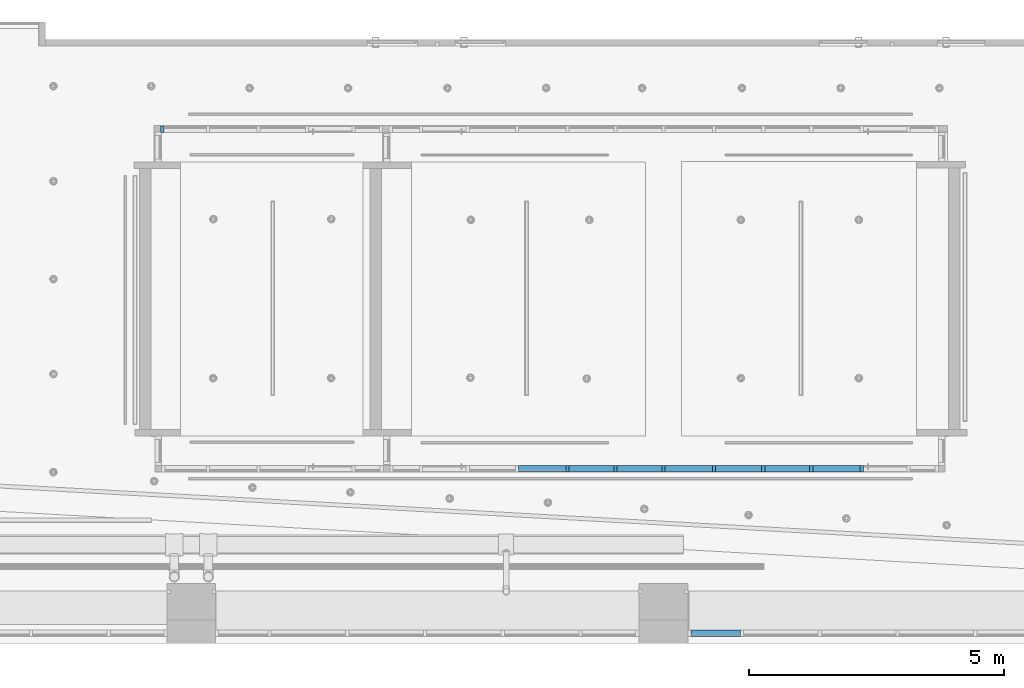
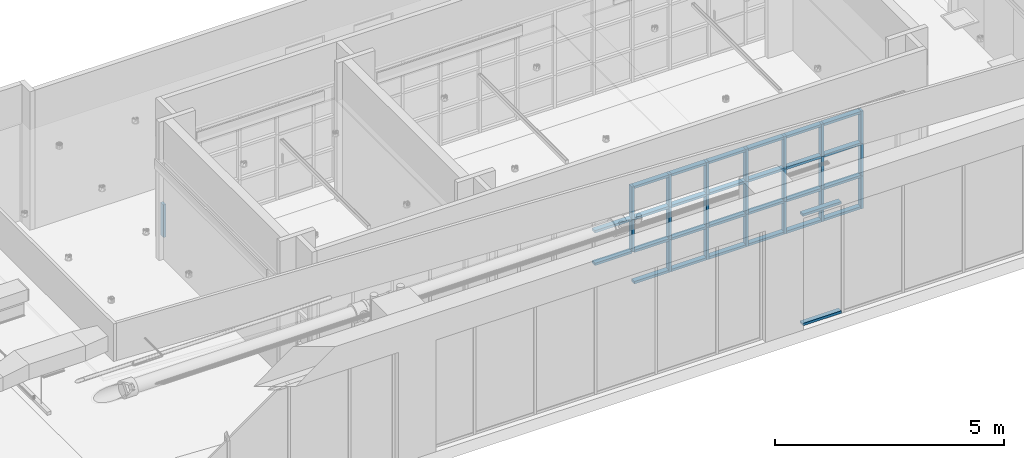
# One storey, part 6 of 108: 49 members, 3 elements without a shape of their own.
"""IFC4 building model written with IfcOpenShell, lengths in feet."""

from ifc_helpers import new_model, entity, si_unit, converted_unit, derived_unit, direction, frame, origin, origin_2d_with_axis, place, context, subcontext, project, spatial, rectangle, extrude, source, transform, mapped, material, material_profile, profile_set, profile_usage, type_object, type_shapes, element, aggregate, save


model = new_model("IFC4")

# Units and contexts
model_context = context("Model", 3, precision=0.0001, world=origin(), true_north=direction((6.12303176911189e-17, 1.0)))
body_context = subcontext(model_context, "Body", "Model", "MODEL_VIEW")
ifc_project = project(units=[converted_unit("LENGTHUNIT", "FOOT", entity("IfcRatioMeasure", 0.3048), si_unit("LENGTHUNIT", "METRE"), dimensions=[1, 0, 0, 0, 0, 0, 0]), converted_unit("AREAUNIT", "SQUARE FOOT", entity("IfcRatioMeasure", 0.09290304), si_unit("AREAUNIT", "SQUARE_METRE"), dimensions=[2, 0, 0, 0, 0, 0, 0]), converted_unit("VOLUMEUNIT", "CUBIC FOOT", entity("IfcRatioMeasure", 0.028316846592), si_unit("VOLUMEUNIT", "CUBIC_METRE"), dimensions=[3, 0, 0, 0, 0, 0, 0]), converted_unit("PLANEANGLEUNIT", "DEGREE", entity("IfcRatioMeasure", 0.0174532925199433), si_unit("PLANEANGLEUNIT", "RADIAN"), dimensions=[0, 0, 0, 0, 0, 0, 0]), si_unit("MASSUNIT", "GRAM", prefix="KILO"), derived_unit("MASSDENSITYUNIT", [(si_unit("MASSUNIT", "GRAM", prefix="KILO"), 1), (si_unit("LENGTHUNIT", "METRE"), -3)]), si_unit("TIMEUNIT", "SECOND"), si_unit("FREQUENCYUNIT", "HERTZ"), si_unit("THERMODYNAMICTEMPERATUREUNIT", "DEGREE_CELSIUS"), derived_unit("THERMALTRANSMITTANCEUNIT", [(si_unit("MASSUNIT", "GRAM", prefix="KILO"), 1), (si_unit("THERMODYNAMICTEMPERATUREUNIT", "KELVIN"), -1), (si_unit("TIMEUNIT", "SECOND"), -3)]), derived_unit("VOLUMETRICFLOWRATEUNIT", [(si_unit("LENGTHUNIT", "METRE"), 3), (si_unit("TIMEUNIT", "SECOND"), -1)]), si_unit("ELECTRICCURRENTUNIT", "AMPERE"), si_unit("ELECTRICVOLTAGEUNIT", "VOLT"), si_unit("POWERUNIT", "WATT"), si_unit("FORCEUNIT", "NEWTON"), si_unit("ILLUMINANCEUNIT", "LUX"), si_unit("LUMINOUSFLUXUNIT", "LUMEN"), si_unit("LUMINOUSINTENSITYUNIT", "CANDELA"), derived_unit("USERDEFINED", [(si_unit("MASSUNIT", "GRAM", prefix="KILO"), -1), (si_unit("LENGTHUNIT", "METRE"), -2), (si_unit("TIMEUNIT", "SECOND"), 3), (si_unit("LUMINOUSFLUXUNIT", "LUMEN"), 1)]), derived_unit("LINEARVELOCITYUNIT", [(si_unit("LENGTHUNIT", "METRE"), 1), (si_unit("TIMEUNIT", "SECOND"), -1)]), si_unit("PRESSUREUNIT", "PASCAL"), derived_unit("USERDEFINED", [(si_unit("LENGTHUNIT", "METRE"), -2), (si_unit("MASSUNIT", "GRAM", prefix="KILO"), 1), (si_unit("TIMEUNIT", "SECOND"), -2)])], contexts=[model_context])

# Site, building, storey
site_placement = place(None, origin())
site = spatial("IfcSite", under=ifc_project, at=site_placement, Name="Default", CompositionType="ELEMENT")
building_placement = place(site_placement, origin())
building = spatial("IfcBuilding", under=site, at=building_placement, CompositionType="ELEMENT")
storey_placement = place(building_placement, frame((0.0, 0.0, 168.0)))
storey = spatial("IfcBuildingStorey", under=building, at=storey_placement, Name="Level 15", CompositionType="ELEMENT", Elevation=168.0)

# Curtain wall, members
curtain_wall_type_1 = type_object("IfcCurtainWallType", Name="Curtain Wall:Storefront", PredefinedType="NOTDEFINED")
curtain_wall_1_placement = place(storey_placement, frame((0.0, 0.0, -168.0)))
curtain_wall_1 = element("IfcCurtainWall", 1, at=curtain_wall_1_placement, inside=storey, type_object=curtain_wall_type_1, Name="Curtain Wall:Storefront", ObjectType="Curtain Wall:Storefront", PredefinedType="NOTDEFINED")
ifc_material = material(Name="Aluminum", Category="Metal")
ifc_material_profile = material_profile(ifc_material, rectangle(XDim=0.416666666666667, YDim=0.208333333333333, at=origin_2d_with_axis()), Name="2.5\" x 5\" rectangular")
ifc_profile_set = profile_set([ifc_material_profile], Name="2.5\" x 5\" rectangular")
ifc_profile_usage_1 = profile_usage(ifc_profile_set)
member_type_1 = type_object("IfcMemberType", Name="2.5\" x 5\" rectangular", PredefinedType="MEMBER", material=ifc_profile_set)
shared_shape_1 = source(origin(), body_context, "Body", "SweptSolid", [
    extrude(rectangle(XDim=0.416666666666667, YDim=0.208333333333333, at=origin_2d_with_axis()), frame((-0.104166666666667, 0.0, -3.16660895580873), z_axis=(0.0, 0.0, 1.0), x_axis=(0.0, -1.0, 0.0)), (0.0, 0.0, 1.0), 3.16660895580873),
])
type_shapes(member_type_1, [shared_shape_1])
member_1_placement = place(storey_placement, frame((32.7802034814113, -22.4324357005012, 9.74877040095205), z_axis=(-1.0, 0.0, 0.0), x_axis=(0.0, 0.0, 1.0)))
member_1 = element("IfcMember", 2, at=member_1_placement, type_object=member_type_1, material=ifc_profile_usage_1, Name="Rectangular Mullion:2.5\" x 5\" rectangular", ObjectType="Rectangular Mullion:2.5\" x 5\" rectangular", PredefinedType="MULLION", context=body_context, shape_type="MappedRepresentation", body=[
    mapped(shared_shape_1, transform((0.0, 0.0, 0.0), scale=1.0)),
])
ifc_profile_usage_2 = profile_usage(ifc_profile_set)
member_type_2 = type_object("IfcMemberType", Name="2.5\" x 5\" rectangular", PredefinedType="MEMBER", material=ifc_profile_set)
shared_shape_2 = source(origin(), body_context, "Body", "SweptSolid", [
    extrude(rectangle(XDim=0.416666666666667, YDim=0.208333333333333, at=origin_2d_with_axis()), frame((-0.104166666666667, 0.0, -3.16660895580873), z_axis=(0.0, 0.0, 1.0), x_axis=(0.0, -1.0, 0.0)), (0.0, 0.0, 1.0), 3.16660895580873),
])
type_shapes(member_type_2, [shared_shape_2])
member_2_placement = place(storey_placement, frame((35.94681243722, -22.4324357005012, 0.0), z_axis=(1.0, 0.0, 0.0), x_axis=(0.0, 0.0, -1.0)))
member_2 = element("IfcMember", 3, at=member_2_placement, type_object=member_type_2, material=ifc_profile_usage_2, Name="Rectangular Mullion:2.5\" x 5\" rectangular", ObjectType="Rectangular Mullion:2.5\" x 5\" rectangular", PredefinedType="MULLION", context=body_context, shape_type="MappedRepresentation", body=[
    mapped(shared_shape_2, transform((0.0, 0.0, 0.0), scale=1.0)),
])
aggregate(curtain_wall_1, [member_1, member_2])

curtain_wall_type_2 = type_object("IfcCurtainWallType", Name="Curtain Wall:Storefront 02", PredefinedType="NOTDEFINED")
curtain_wall_2_placement = place(storey_placement, frame((0.0, 0.0, -168.0)))
curtain_wall_2 = element("IfcCurtainWall", 4, at=curtain_wall_2_placement, inside=storey, type_object=curtain_wall_type_2, Name="Curtain Wall:Storefront 02", ObjectType="Curtain Wall:Storefront 02", PredefinedType="NOTDEFINED")
ifc_profile_usage_3 = profile_usage(ifc_profile_set)
member_type_3 = type_object("IfcMemberType", Name="2.5\" x 5\" rectangular", PredefinedType="MEMBER", material=ifc_profile_set)
shared_shape_3 = source(origin(), body_context, "Body", "SweptSolid", [
    extrude(rectangle(XDim=0.416666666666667, YDim=0.208333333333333, at=origin_2d_with_axis()), frame((0.0, 0.0, -2.84094160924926), z_axis=(0.0, 0.0, 1.0), x_axis=(0.0, -1.0, 0.0)), (0.0, 0.0, 1.0), 2.84094160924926),
])
type_shapes(member_type_3, [shared_shape_3])
member_3_placement = place(storey_placement, frame((27.922037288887, -11.8802703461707, 0.0), z_axis=(0.0, 0.0, -1.0), x_axis=(-1.0, 0.0, 0.0)))
member_3 = element("IfcMember", 5, at=member_3_placement, type_object=member_type_3, material=ifc_profile_usage_3, Name="Rectangular Mullion:2.5\" x 5\" rectangular", ObjectType="Rectangular Mullion:2.5\" x 5\" rectangular", PredefinedType="MULLION", context=body_context, shape_type="MappedRepresentation", body=[
    mapped(shared_shape_3, transform((0.0, 0.0, 0.0), scale=1.0)),
])
ifc_profile_usage_4 = profile_usage(ifc_profile_set)
member_4_placement = place(storey_placement, frame((31.0053706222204, -11.8802703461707, 0.0), z_axis=(0.0, 0.0, -1.0), x_axis=(-1.0, 0.0, 0.0)))
member_4 = element("IfcMember", 6, at=member_4_placement, type_object=member_type_3, material=ifc_profile_usage_4, Name="Rectangular Mullion:2.5\" x 5\" rectangular", ObjectType="Rectangular Mullion:2.5\" x 5\" rectangular", PredefinedType="MULLION", context=body_context, shape_type="MappedRepresentation", body=[
    mapped(shared_shape_3, transform((0.0, 0.0, 0.0), scale=1.0)),
])
ifc_profile_usage_5 = profile_usage(ifc_profile_set)
member_5_placement = place(storey_placement, frame((34.2553706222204, -11.8802703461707, 0.0), z_axis=(0.0, 0.0, -1.0), x_axis=(-1.0, 0.0, 0.0)))
member_5 = element("IfcMember", 7, at=member_5_placement, type_object=member_type_3, material=ifc_profile_usage_5, Name="Rectangular Mullion:2.5\" x 5\" rectangular", ObjectType="Rectangular Mullion:2.5\" x 5\" rectangular", PredefinedType="MULLION", context=body_context, shape_type="MappedRepresentation", body=[
    mapped(shared_shape_3, transform((0.0, 0.0, 0.0), scale=1.0)),
])
ifc_profile_usage_6 = profile_usage(ifc_profile_set)
member_6_placement = place(storey_placement, frame((37.422037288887, -11.8802703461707, 0.0), z_axis=(0.0, 0.0, -1.0), x_axis=(-1.0, 0.0, 0.0)))
member_6 = element("IfcMember", 8, at=member_6_placement, type_object=member_type_3, material=ifc_profile_usage_6, Name="Rectangular Mullion:2.5\" x 5\" rectangular", ObjectType="Rectangular Mullion:2.5\" x 5\" rectangular", PredefinedType="MULLION", context=body_context, shape_type="MappedRepresentation", body=[
    mapped(shared_shape_3, transform((0.0, 0.0, 0.0), scale=1.0)),
])
ifc_profile_usage_7 = profile_usage(ifc_profile_set)
member_7_placement = place(storey_placement, frame((40.5053706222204, -11.8802703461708, 0.0), z_axis=(0.0, 0.0, -1.0), x_axis=(-1.0, 0.0, 0.0)))
member_7 = element("IfcMember", 9, at=member_7_placement, type_object=member_type_3, material=ifc_profile_usage_7, Name="Rectangular Mullion:2.5\" x 5\" rectangular", ObjectType="Rectangular Mullion:2.5\" x 5\" rectangular", PredefinedType="MULLION", context=body_context, shape_type="MappedRepresentation", body=[
    mapped(shared_shape_3, transform((0.0, 0.0, 0.0), scale=1.0)),
])
ifc_profile_usage_8 = profile_usage(ifc_profile_set)
member_8_placement = place(storey_placement, frame((43.7553706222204, -11.8802703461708, 0.0), z_axis=(0.0, 0.0, -1.0), x_axis=(-1.0, 0.0, 0.0)))
member_8 = element("IfcMember", 10, at=member_8_placement, type_object=member_type_3, material=ifc_profile_usage_8, Name="Rectangular Mullion:2.5\" x 5\" rectangular", ObjectType="Rectangular Mullion:2.5\" x 5\" rectangular", PredefinedType="MULLION", context=body_context, shape_type="MappedRepresentation", body=[
    mapped(shared_shape_3, transform((0.0, 0.0, 0.0), scale=1.0)),
])
ifc_profile_usage_9 = profile_usage(ifc_profile_set)
member_type_4 = type_object("IfcMemberType", Name="2.5\" x 5\" rectangular", PredefinedType="MEMBER", material=ifc_profile_set)
shared_shape_4 = source(origin(), body_context, "Body", "SweptSolid", [
    extrude(rectangle(XDim=0.416666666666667, YDim=0.208333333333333, at=origin_2d_with_axis()), frame((-0.104166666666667, 0.0, -2.95833333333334), z_axis=(0.0, 0.0, 1.0), x_axis=(0.0, -1.0, 0.0)), (0.0, 0.0, 1.0), 2.95833333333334),
])
type_shapes(member_type_4, [shared_shape_4])
member_9_placement = place(storey_placement, frame((34.359537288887, -11.8802703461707, 8.52282482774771), z_axis=(-1.0, 0.0, 0.0), x_axis=(0.0, 0.0, 1.0)))
member_9 = element("IfcMember", 11, at=member_9_placement, type_object=member_type_4, material=ifc_profile_usage_9, Name="Rectangular Mullion:2.5\" x 5\" rectangular", ObjectType="Rectangular Mullion:2.5\" x 5\" rectangular", PredefinedType="MULLION", context=body_context, shape_type="MappedRepresentation", body=[
    mapped(shared_shape_4, transform((0.0, 0.0, 0.0), scale=1.0)),
])
ifc_profile_usage_10 = profile_usage(ifc_profile_set)
member_type_5 = type_object("IfcMemberType", Name="2.5\" x 5\" rectangular", PredefinedType="MEMBER", material=ifc_profile_set)
shared_shape_5 = source(origin(), body_context, "Body", "SweptSolid", [
    extrude(rectangle(XDim=0.416666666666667, YDim=0.208333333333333, at=origin_2d_with_axis()), frame((-0.104166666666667, 0.0, -3.04166666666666), z_axis=(0.0, 0.0, 1.0), x_axis=(0.0, -1.0, 0.0)), (0.0, 0.0, 1.0), 3.04166666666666),
])
type_shapes(member_type_5, [shared_shape_5])
member_10_placement = place(storey_placement, frame((31.109537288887, -11.8802703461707, 8.52282482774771), z_axis=(-1.0, 0.0, 0.0), x_axis=(0.0, 0.0, 1.0)))
member_10 = element("IfcMember", 12, at=member_10_placement, type_object=member_type_5, material=ifc_profile_usage_10, Name="Rectangular Mullion:2.5\" x 5\" rectangular", ObjectType="Rectangular Mullion:2.5\" x 5\" rectangular", PredefinedType="MULLION", context=body_context, shape_type="MappedRepresentation", body=[
    mapped(shared_shape_5, transform((0.0, 0.0, 0.0), scale=1.0)),
])
ifc_profile_usage_11 = profile_usage(ifc_profile_set)
member_11_placement = place(storey_placement, frame((40.609537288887, -11.8802703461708, 8.52282482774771), z_axis=(-1.0, 0.0, 0.0), x_axis=(0.0, 0.0, 1.0)))
member_11 = element("IfcMember", 13, at=member_11_placement, type_object=member_type_5, material=ifc_profile_usage_11, Name="Rectangular Mullion:2.5\" x 5\" rectangular", ObjectType="Rectangular Mullion:2.5\" x 5\" rectangular", PredefinedType="MULLION", context=body_context, shape_type="MappedRepresentation", body=[
    mapped(shared_shape_5, transform((0.0, 0.0, 0.0), scale=1.0)),
])
ifc_profile_usage_12 = profile_usage(ifc_profile_set)
member_type_6 = type_object("IfcMemberType", Name="2.5\" x 5\" rectangular", PredefinedType="MEMBER", material=ifc_profile_set)
shared_shape_6 = source(origin(), body_context, "Body", "SweptSolid", [
    extrude(rectangle(XDim=0.416666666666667, YDim=0.208333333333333, at=origin_2d_with_axis()), frame((-0.104166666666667, 0.0, -2.95833333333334), z_axis=(0.0, 0.0, 1.0), x_axis=(0.0, -1.0, 0.0)), (0.0, 0.0, 1.0), 2.95833333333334),
])
type_shapes(member_type_6, [shared_shape_6])
member_12_placement = place(storey_placement, frame((37.3178706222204, -11.8802703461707, 0.0), z_axis=(1.0, 0.0, 0.0), x_axis=(0.0, 0.0, -1.0)))
member_12 = element("IfcMember", 14, at=member_12_placement, type_object=member_type_6, material=ifc_profile_usage_12, Name="Rectangular Mullion:2.5\" x 5\" rectangular", ObjectType="Rectangular Mullion:2.5\" x 5\" rectangular", PredefinedType="MULLION", context=body_context, shape_type="MappedRepresentation", body=[
    mapped(shared_shape_6, transform((0.0, 0.0, 0.0), scale=1.0)),
])
ifc_profile_usage_13 = profile_usage(ifc_profile_set)
member_type_7 = type_object("IfcMemberType", Name="2.5\" x 5\" rectangular", PredefinedType="MEMBER", material=ifc_profile_set)
shared_shape_7 = source(origin(), body_context, "Body", "SweptSolid", [
    extrude(rectangle(XDim=0.416666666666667, YDim=0.208333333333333, at=origin_2d_with_axis()), frame((-0.104166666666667, 0.0, -2.875), z_axis=(0.0, 0.0, 1.0), x_axis=(0.0, -1.0, 0.0)), (0.0, 0.0, 1.0), 2.875),
])
type_shapes(member_type_7, [shared_shape_7])
member_13_placement = place(storey_placement, frame((24.9428706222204, -11.8802703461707, 8.52282482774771), z_axis=(-1.0, 0.0, 0.0), x_axis=(0.0, 0.0, 1.0)))
member_13 = element("IfcMember", 15, at=member_13_placement, type_object=member_type_7, material=ifc_profile_usage_13, Name="Rectangular Mullion:2.5\" x 5\" rectangular", ObjectType="Rectangular Mullion:2.5\" x 5\" rectangular", PredefinedType="MULLION", context=body_context, shape_type="MappedRepresentation", body=[
    mapped(shared_shape_7, transform((0.0, 0.0, 0.0), scale=1.0)),
])
ifc_profile_usage_14 = profile_usage(ifc_profile_set)
member_14_placement = place(storey_placement, frame((28.0262039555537, -11.8802703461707, 8.52282482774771), z_axis=(-1.0, 0.0, 0.0), x_axis=(0.0, 0.0, 1.0)))
member_14 = element("IfcMember", 16, at=member_14_placement, type_object=member_type_7, material=ifc_profile_usage_14, Name="Rectangular Mullion:2.5\" x 5\" rectangular", ObjectType="Rectangular Mullion:2.5\" x 5\" rectangular", PredefinedType="MULLION", context=body_context, shape_type="MappedRepresentation", body=[
    mapped(shared_shape_7, transform((0.0, 0.0, 0.0), scale=1.0)),
])
ifc_profile_usage_15 = profile_usage(ifc_profile_set)
member_15_placement = place(storey_placement, frame((37.5262039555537, -11.8802703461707, 8.52282482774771), z_axis=(-1.0, 0.0, 0.0), x_axis=(0.0, 0.0, 1.0)))
member_15 = element("IfcMember", 17, at=member_15_placement, type_object=member_type_7, material=ifc_profile_usage_15, Name="Rectangular Mullion:2.5\" x 5\" rectangular", ObjectType="Rectangular Mullion:2.5\" x 5\" rectangular", PredefinedType="MULLION", context=body_context, shape_type="MappedRepresentation", body=[
    mapped(shared_shape_7, transform((0.0, 0.0, 0.0), scale=1.0)),
])
ifc_profile_usage_16 = profile_usage(ifc_profile_set)
member_type_8 = type_object("IfcMemberType", Name="2.5\" x 5\" rectangular", PredefinedType="MEMBER", material=ifc_profile_set)
shared_shape_8 = source(origin(), body_context, "Body", "SweptSolid", [
    extrude(rectangle(XDim=0.416666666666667, YDim=0.208333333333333, at=origin_2d_with_axis()), frame((-0.104166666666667, 0.0, -3.04166666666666), z_axis=(0.0, 0.0, 1.0), x_axis=(0.0, -1.0, 0.0)), (0.0, 0.0, 1.0), 3.04166666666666),
])
type_shapes(member_type_8, [shared_shape_8])
member_16_placement = place(storey_placement, frame((34.1512039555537, -11.8802703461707, 0.0), z_axis=(1.0, 0.0, 0.0), x_axis=(0.0, 0.0, -1.0)))
member_16 = element("IfcMember", 18, at=member_16_placement, type_object=member_type_8, material=ifc_profile_usage_16, Name="Rectangular Mullion:2.5\" x 5\" rectangular", ObjectType="Rectangular Mullion:2.5\" x 5\" rectangular", PredefinedType="MULLION", context=body_context, shape_type="MappedRepresentation", body=[
    mapped(shared_shape_8, transform((0.0, 0.0, 0.0), scale=1.0)),
])
ifc_profile_usage_17 = profile_usage(ifc_profile_set)
member_17_placement = place(storey_placement, frame((43.6512039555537, -11.8802703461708, 0.0), z_axis=(1.0, 0.0, 0.0), x_axis=(0.0, 0.0, -1.0)))
member_17 = element("IfcMember", 19, at=member_17_placement, type_object=member_type_8, material=ifc_profile_usage_17, Name="Rectangular Mullion:2.5\" x 5\" rectangular", ObjectType="Rectangular Mullion:2.5\" x 5\" rectangular", PredefinedType="MULLION", context=body_context, shape_type="MappedRepresentation", body=[
    mapped(shared_shape_8, transform((0.0, 0.0, 0.0), scale=1.0)),
])
ifc_profile_usage_18 = profile_usage(ifc_profile_set)
member_type_9 = type_object("IfcMemberType", Name="2.5\" x 5\" rectangular", PredefinedType="MEMBER", material=ifc_profile_set)
shared_shape_9 = source(origin(), body_context, "Body", "SweptSolid", [
    extrude(rectangle(XDim=0.416666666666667, YDim=0.208333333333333, at=origin_2d_with_axis()), frame((-0.104166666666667, 0.0, -2.875), z_axis=(0.0, 0.0, 1.0), x_axis=(0.0, -1.0, 0.0)), (0.0, 0.0, 1.0), 2.875),
])
type_shapes(member_type_9, [shared_shape_9])
member_18_placement = place(storey_placement, frame((27.8178706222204, -11.8802703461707, 0.0), z_axis=(1.0, 0.0, 0.0), x_axis=(0.0, 0.0, -1.0)))
member_18 = element("IfcMember", 20, at=member_18_placement, type_object=member_type_9, material=ifc_profile_usage_18, Name="Rectangular Mullion:2.5\" x 5\" rectangular", ObjectType="Rectangular Mullion:2.5\" x 5\" rectangular", PredefinedType="MULLION", context=body_context, shape_type="MappedRepresentation", body=[
    mapped(shared_shape_9, transform((0.0, 0.0, 0.0), scale=1.0)),
])
ifc_profile_usage_19 = profile_usage(ifc_profile_set)
member_19_placement = place(storey_placement, frame((30.9012039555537, -11.8802703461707, 0.0), z_axis=(1.0, 0.0, 0.0), x_axis=(0.0, 0.0, -1.0)))
member_19 = element("IfcMember", 21, at=member_19_placement, type_object=member_type_9, material=ifc_profile_usage_19, Name="Rectangular Mullion:2.5\" x 5\" rectangular", ObjectType="Rectangular Mullion:2.5\" x 5\" rectangular", PredefinedType="MULLION", context=body_context, shape_type="MappedRepresentation", body=[
    mapped(shared_shape_9, transform((0.0, 0.0, 0.0), scale=1.0)),
])
ifc_profile_usage_20 = profile_usage(ifc_profile_set)
member_20_placement = place(storey_placement, frame((40.4012039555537, -11.8802703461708, 0.0), z_axis=(1.0, 0.0, 0.0), x_axis=(0.0, 0.0, -1.0)))
member_20 = element("IfcMember", 22, at=member_20_placement, type_object=member_type_9, material=ifc_profile_usage_20, Name="Rectangular Mullion:2.5\" x 5\" rectangular", ObjectType="Rectangular Mullion:2.5\" x 5\" rectangular", PredefinedType="MULLION", context=body_context, shape_type="MappedRepresentation", body=[
    mapped(shared_shape_9, transform((0.0, 0.0, 0.0), scale=1.0)),
])
ifc_profile_usage_21 = profile_usage(ifc_profile_set)
member_type_10 = type_object("IfcMemberType", Name="2.5\" x 5\" rectangular", PredefinedType="MEMBER", material=ifc_profile_set)
shared_shape_10 = source(origin(), body_context, "Body", "SweptSolid", [
    extrude(rectangle(XDim=0.416666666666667, YDim=0.208333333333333, at=origin_2d_with_axis()), frame((0.0, 0.0, -3.04166666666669), z_axis=(0.0, 0.0, 1.0), x_axis=(0.0, -1.0, 0.0)), (0.0, 0.0, 1.0), 3.04166666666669),
])
type_shapes(member_type_10, [shared_shape_10])
member_21_placement = place(storey_placement, frame((40.609537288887, -11.8802703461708, 5.68188321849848), z_axis=(-1.0, 0.0, 0.0), x_axis=(0.0, 0.0, 1.0)))
member_21 = element("IfcMember", 23, at=member_21_placement, type_object=member_type_10, material=ifc_profile_usage_21, Name="Rectangular Mullion:2.5\" x 5\" rectangular", ObjectType="Rectangular Mullion:2.5\" x 5\" rectangular", PredefinedType="MULLION", context=body_context, shape_type="MappedRepresentation", body=[
    mapped(shared_shape_10, transform((0.0, 0.0, 0.0), scale=1.0)),
])
ifc_profile_usage_22 = profile_usage(ifc_profile_set)
member_22_placement = place(storey_placement, frame((31.109537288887, -11.8802703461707, 5.68188321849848), z_axis=(-1.0, 0.0, 0.0), x_axis=(0.0, 0.0, 1.0)))
member_22 = element("IfcMember", 24, at=member_22_placement, type_object=member_type_10, material=ifc_profile_usage_22, Name="Rectangular Mullion:2.5\" x 5\" rectangular", ObjectType="Rectangular Mullion:2.5\" x 5\" rectangular", PredefinedType="MULLION", context=body_context, shape_type="MappedRepresentation", body=[
    mapped(shared_shape_10, transform((0.0, 0.0, 0.0), scale=1.0)),
])
ifc_profile_usage_23 = profile_usage(ifc_profile_set)
member_23_placement = place(storey_placement, frame((21.6928706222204, -11.8802703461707, 5.68188321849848), z_axis=(-1.0, 0.0, 0.0), x_axis=(0.0, 0.0, 1.0)))
member_23 = element("IfcMember", 25, at=member_23_placement, type_object=member_type_10, material=ifc_profile_usage_23, Name="Rectangular Mullion:2.5\" x 5\" rectangular", ObjectType="Rectangular Mullion:2.5\" x 5\" rectangular", PredefinedType="MULLION", context=body_context, shape_type="MappedRepresentation", body=[
    mapped(shared_shape_10, transform((0.0, 0.0, 0.0), scale=1.0)),
])
ifc_profile_usage_24 = profile_usage(ifc_profile_set)
member_24_placement = place(storey_placement, frame((40.609537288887, -11.8802703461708, 2.84094160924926), z_axis=(-1.0, 0.0, 0.0), x_axis=(0.0, 0.0, 1.0)))
member_24 = element("IfcMember", 26, at=member_24_placement, type_object=member_type_10, material=ifc_profile_usage_24, Name="Rectangular Mullion:2.5\" x 5\" rectangular", ObjectType="Rectangular Mullion:2.5\" x 5\" rectangular", PredefinedType="MULLION", context=body_context, shape_type="MappedRepresentation", body=[
    mapped(shared_shape_10, transform((0.0, 0.0, 0.0), scale=1.0)),
])
ifc_profile_usage_25 = profile_usage(ifc_profile_set)
member_25_placement = place(storey_placement, frame((31.109537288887, -11.8802703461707, 2.84094160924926), z_axis=(-1.0, 0.0, 0.0), x_axis=(0.0, 0.0, 1.0)))
member_25 = element("IfcMember", 27, at=member_25_placement, type_object=member_type_10, material=ifc_profile_usage_25, Name="Rectangular Mullion:2.5\" x 5\" rectangular", ObjectType="Rectangular Mullion:2.5\" x 5\" rectangular", PredefinedType="MULLION", context=body_context, shape_type="MappedRepresentation", body=[
    mapped(shared_shape_10, transform((0.0, 0.0, 0.0), scale=1.0)),
])
ifc_profile_usage_26 = profile_usage(ifc_profile_set)
member_26_placement = place(storey_placement, frame((21.6928706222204, -11.8802703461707, 2.84094160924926), z_axis=(-1.0, 0.0, 0.0), x_axis=(0.0, 0.0, 1.0)))
member_26 = element("IfcMember", 28, at=member_26_placement, type_object=member_type_10, material=ifc_profile_usage_26, Name="Rectangular Mullion:2.5\" x 5\" rectangular", ObjectType="Rectangular Mullion:2.5\" x 5\" rectangular", PredefinedType="MULLION", context=body_context, shape_type="MappedRepresentation", body=[
    mapped(shared_shape_10, transform((0.0, 0.0, 0.0), scale=1.0)),
])
ifc_profile_usage_27 = profile_usage(ifc_profile_set)
member_type_11 = type_object("IfcMemberType", Name="2.5\" x 5\" rectangular", PredefinedType="MEMBER", material=ifc_profile_set)
shared_shape_11 = source(origin(), body_context, "Body", "SweptSolid", [
    extrude(rectangle(XDim=0.416666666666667, YDim=0.208333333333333, at=origin_2d_with_axis()), frame((0.0, 0.0, -2.875), z_axis=(0.0, 0.0, 1.0), x_axis=(0.0, -1.0, 0.0)), (0.0, 0.0, 1.0), 2.875),
])
type_shapes(member_type_11, [shared_shape_11])
member_27_placement = place(storey_placement, frame((37.5262039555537, -11.8802703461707, 5.68188321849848), z_axis=(-1.0, 0.0, 0.0), x_axis=(0.0, 0.0, 1.0)))
member_27 = element("IfcMember", 29, at=member_27_placement, type_object=member_type_11, material=ifc_profile_usage_27, Name="Rectangular Mullion:2.5\" x 5\" rectangular", ObjectType="Rectangular Mullion:2.5\" x 5\" rectangular", PredefinedType="MULLION", context=body_context, shape_type="MappedRepresentation", body=[
    mapped(shared_shape_11, transform((0.0, 0.0, 0.0), scale=1.0)),
])
ifc_profile_usage_28 = profile_usage(ifc_profile_set)
member_28_placement = place(storey_placement, frame((28.0262039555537, -11.8802703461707, 5.68188321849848), z_axis=(-1.0, 0.0, 0.0), x_axis=(0.0, 0.0, 1.0)))
member_28 = element("IfcMember", 30, at=member_28_placement, type_object=member_type_11, material=ifc_profile_usage_28, Name="Rectangular Mullion:2.5\" x 5\" rectangular", ObjectType="Rectangular Mullion:2.5\" x 5\" rectangular", PredefinedType="MULLION", context=body_context, shape_type="MappedRepresentation", body=[
    mapped(shared_shape_11, transform((0.0, 0.0, 0.0), scale=1.0)),
])
ifc_profile_usage_29 = profile_usage(ifc_profile_set)
member_29_placement = place(storey_placement, frame((24.9428706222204, -11.8802703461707, 5.68188321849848), z_axis=(-1.0, 0.0, 0.0), x_axis=(0.0, 0.0, 1.0)))
member_29 = element("IfcMember", 31, at=member_29_placement, type_object=member_type_11, material=ifc_profile_usage_29, Name="Rectangular Mullion:2.5\" x 5\" rectangular", ObjectType="Rectangular Mullion:2.5\" x 5\" rectangular", PredefinedType="MULLION", context=body_context, shape_type="MappedRepresentation", body=[
    mapped(shared_shape_11, transform((0.0, 0.0, 0.0), scale=1.0)),
])
ifc_profile_usage_30 = profile_usage(ifc_profile_set)
member_30_placement = place(storey_placement, frame((37.5262039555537, -11.8802703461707, 2.84094160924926), z_axis=(-1.0, 0.0, 0.0), x_axis=(0.0, 0.0, 1.0)))
member_30 = element("IfcMember", 32, at=member_30_placement, type_object=member_type_11, material=ifc_profile_usage_30, Name="Rectangular Mullion:2.5\" x 5\" rectangular", ObjectType="Rectangular Mullion:2.5\" x 5\" rectangular", PredefinedType="MULLION", context=body_context, shape_type="MappedRepresentation", body=[
    mapped(shared_shape_11, transform((0.0, 0.0, 0.0), scale=1.0)),
])
ifc_profile_usage_31 = profile_usage(ifc_profile_set)
member_31_placement = place(storey_placement, frame((28.0262039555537, -11.8802703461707, 2.84094160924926), z_axis=(-1.0, 0.0, 0.0), x_axis=(0.0, 0.0, 1.0)))
member_31 = element("IfcMember", 33, at=member_31_placement, type_object=member_type_11, material=ifc_profile_usage_31, Name="Rectangular Mullion:2.5\" x 5\" rectangular", ObjectType="Rectangular Mullion:2.5\" x 5\" rectangular", PredefinedType="MULLION", context=body_context, shape_type="MappedRepresentation", body=[
    mapped(shared_shape_11, transform((0.0, 0.0, 0.0), scale=1.0)),
])
ifc_profile_usage_32 = profile_usage(ifc_profile_set)
member_32_placement = place(storey_placement, frame((24.9428706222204, -11.8802703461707, 2.84094160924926), z_axis=(-1.0, 0.0, 0.0), x_axis=(0.0, 0.0, 1.0)))
member_32 = element("IfcMember", 34, at=member_32_placement, type_object=member_type_11, material=ifc_profile_usage_32, Name="Rectangular Mullion:2.5\" x 5\" rectangular", ObjectType="Rectangular Mullion:2.5\" x 5\" rectangular", PredefinedType="MULLION", context=body_context, shape_type="MappedRepresentation", body=[
    mapped(shared_shape_11, transform((0.0, 0.0, 0.0), scale=1.0)),
])
ifc_profile_usage_33 = profile_usage(ifc_profile_set)
member_type_12 = type_object("IfcMemberType", Name="2.5\" x 5\" rectangular", PredefinedType="MEMBER", material=ifc_profile_set)
shared_shape_12 = source(origin(), body_context, "Body", "SweptSolid", [
    extrude(rectangle(XDim=0.416666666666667, YDim=0.208333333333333, at=origin_2d_with_axis()), frame((0.0, 0.0, -2.95833333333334), z_axis=(0.0, 0.0, 1.0), x_axis=(0.0, -1.0, 0.0)), (0.0, 0.0, 1.0), 2.95833333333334),
])
type_shapes(member_type_12, [shared_shape_12])
member_33_placement = place(storey_placement, frame((34.359537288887, -11.8802703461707, 5.68188321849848), z_axis=(-1.0, 0.0, 0.0), x_axis=(0.0, 0.0, 1.0)))
member_33 = element("IfcMember", 35, at=member_33_placement, type_object=member_type_12, material=ifc_profile_usage_33, Name="Rectangular Mullion:2.5\" x 5\" rectangular", ObjectType="Rectangular Mullion:2.5\" x 5\" rectangular", PredefinedType="MULLION", context=body_context, shape_type="MappedRepresentation", body=[
    mapped(shared_shape_12, transform((0.0, 0.0, 0.0), scale=1.0)),
])
ifc_profile_usage_34 = profile_usage(ifc_profile_set)
member_34_placement = place(storey_placement, frame((34.359537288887, -11.8802703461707, 2.84094160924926), z_axis=(-1.0, 0.0, 0.0), x_axis=(0.0, 0.0, 1.0)))
member_34 = element("IfcMember", 36, at=member_34_placement, type_object=member_type_12, material=ifc_profile_usage_34, Name="Rectangular Mullion:2.5\" x 5\" rectangular", ObjectType="Rectangular Mullion:2.5\" x 5\" rectangular", PredefinedType="MULLION", context=body_context, shape_type="MappedRepresentation", body=[
    mapped(shared_shape_12, transform((0.0, 0.0, 0.0), scale=1.0)),
])
ifc_profile_usage_35 = profile_usage(ifc_profile_set)
member_type_13 = type_object("IfcMemberType", Name="2.5\" x 5\" rectangular", PredefinedType="MEMBER", material=ifc_profile_set)
shared_shape_13 = source(origin(), body_context, "Body", "SweptSolid", [
    extrude(rectangle(XDim=0.416666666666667, YDim=0.208333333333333, at=origin_2d_with_axis()), frame((0.0, 0.0, -2.84094160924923), z_axis=(0.0, 0.0, 1.0), x_axis=(0.0, -1.0, 0.0)), (0.0, 0.0, 1.0), 2.84094160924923),
])
type_shapes(member_type_13, [shared_shape_13])
member_35_placement = place(storey_placement, frame((43.7553706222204, -11.8802703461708, 5.68188321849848), z_axis=(0.0, 0.0, -1.0), x_axis=(-1.0, 0.0, 0.0)))
member_35 = element("IfcMember", 37, at=member_35_placement, type_object=member_type_13, material=ifc_profile_usage_35, Name="Rectangular Mullion:2.5\" x 5\" rectangular", ObjectType="Rectangular Mullion:2.5\" x 5\" rectangular", PredefinedType="MULLION", context=body_context, shape_type="MappedRepresentation", body=[
    mapped(shared_shape_13, transform((0.0, 0.0, 0.0), scale=1.0)),
])
ifc_profile_usage_36 = profile_usage(ifc_profile_set)
member_36_placement = place(storey_placement, frame((40.5053706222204, -11.8802703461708, 5.68188321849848), z_axis=(0.0, 0.0, -1.0), x_axis=(-1.0, 0.0, 0.0)))
member_36 = element("IfcMember", 38, at=member_36_placement, type_object=member_type_13, material=ifc_profile_usage_36, Name="Rectangular Mullion:2.5\" x 5\" rectangular", ObjectType="Rectangular Mullion:2.5\" x 5\" rectangular", PredefinedType="MULLION", context=body_context, shape_type="MappedRepresentation", body=[
    mapped(shared_shape_13, transform((0.0, 0.0, 0.0), scale=1.0)),
])
ifc_profile_usage_37 = profile_usage(ifc_profile_set)
member_37_placement = place(storey_placement, frame((37.422037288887, -11.8802703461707, 5.68188321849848), z_axis=(0.0, 0.0, -1.0), x_axis=(-1.0, 0.0, 0.0)))
member_37 = element("IfcMember", 39, at=member_37_placement, type_object=member_type_13, material=ifc_profile_usage_37, Name="Rectangular Mullion:2.5\" x 5\" rectangular", ObjectType="Rectangular Mullion:2.5\" x 5\" rectangular", PredefinedType="MULLION", context=body_context, shape_type="MappedRepresentation", body=[
    mapped(shared_shape_13, transform((0.0, 0.0, 0.0), scale=1.0)),
])
ifc_profile_usage_38 = profile_usage(ifc_profile_set)
member_38_placement = place(storey_placement, frame((34.2553706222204, -11.8802703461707, 5.68188321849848), z_axis=(0.0, 0.0, -1.0), x_axis=(-1.0, 0.0, 0.0)))
member_38 = element("IfcMember", 40, at=member_38_placement, type_object=member_type_13, material=ifc_profile_usage_38, Name="Rectangular Mullion:2.5\" x 5\" rectangular", ObjectType="Rectangular Mullion:2.5\" x 5\" rectangular", PredefinedType="MULLION", context=body_context, shape_type="MappedRepresentation", body=[
    mapped(shared_shape_13, transform((0.0, 0.0, 0.0), scale=1.0)),
])
ifc_profile_usage_39 = profile_usage(ifc_profile_set)
member_39_placement = place(storey_placement, frame((31.0053706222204, -11.8802703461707, 5.68188321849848), z_axis=(0.0, 0.0, -1.0), x_axis=(-1.0, 0.0, 0.0)))
member_39 = element("IfcMember", 41, at=member_39_placement, type_object=member_type_13, material=ifc_profile_usage_39, Name="Rectangular Mullion:2.5\" x 5\" rectangular", ObjectType="Rectangular Mullion:2.5\" x 5\" rectangular", PredefinedType="MULLION", context=body_context, shape_type="MappedRepresentation", body=[
    mapped(shared_shape_13, transform((0.0, 0.0, 0.0), scale=1.0)),
])
ifc_profile_usage_40 = profile_usage(ifc_profile_set)
member_40_placement = place(storey_placement, frame((27.922037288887, -11.8802703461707, 5.68188321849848), z_axis=(0.0, 0.0, -1.0), x_axis=(-1.0, 0.0, 0.0)))
member_40 = element("IfcMember", 42, at=member_40_placement, type_object=member_type_13, material=ifc_profile_usage_40, Name="Rectangular Mullion:2.5\" x 5\" rectangular", ObjectType="Rectangular Mullion:2.5\" x 5\" rectangular", PredefinedType="MULLION", context=body_context, shape_type="MappedRepresentation", body=[
    mapped(shared_shape_13, transform((0.0, 0.0, 0.0), scale=1.0)),
])
ifc_profile_usage_41 = profile_usage(ifc_profile_set)
member_41_placement = place(storey_placement, frame((24.8387039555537, -11.8802703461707, 5.68188321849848), z_axis=(0.0, 0.0, -1.0), x_axis=(-1.0, 0.0, 0.0)))
member_41 = element("IfcMember", 43, at=member_41_placement, type_object=member_type_13, material=ifc_profile_usage_41, Name="Rectangular Mullion:2.5\" x 5\" rectangular", ObjectType="Rectangular Mullion:2.5\" x 5\" rectangular", PredefinedType="MULLION", context=body_context, shape_type="MappedRepresentation", body=[
    mapped(shared_shape_13, transform((0.0, 0.0, 0.0), scale=1.0)),
])
ifc_profile_usage_42 = profile_usage(ifc_profile_set)
member_type_14 = type_object("IfcMemberType", Name="2.5\" x 5\" rectangular", PredefinedType="MEMBER", material=ifc_profile_set)
shared_shape_14 = source(origin(), body_context, "Body", "SweptSolid", [
    extrude(rectangle(XDim=0.416666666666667, YDim=0.208333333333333, at=origin_2d_with_axis()), frame((0.0, 0.0, -2.84094160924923), z_axis=(0.0, 0.0, 1.0), x_axis=(0.0, -1.0, 0.0)), (0.0, 0.0, 1.0), 2.84094160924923),
])
type_shapes(member_type_14, [shared_shape_14])
member_42_placement = place(storey_placement, frame((43.7553706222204, -11.8802703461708, 2.84094160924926), z_axis=(0.0, 0.0, -1.0), x_axis=(-1.0, 0.0, 0.0)))
member_42 = element("IfcMember", 44, at=member_42_placement, type_object=member_type_14, material=ifc_profile_usage_42, Name="Rectangular Mullion:2.5\" x 5\" rectangular", ObjectType="Rectangular Mullion:2.5\" x 5\" rectangular", PredefinedType="MULLION", context=body_context, shape_type="MappedRepresentation", body=[
    mapped(shared_shape_14, transform((0.0, 0.0, 0.0), scale=1.0)),
])
ifc_profile_usage_43 = profile_usage(ifc_profile_set)
member_43_placement = place(storey_placement, frame((40.5053706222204, -11.8802703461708, 2.84094160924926), z_axis=(0.0, 0.0, -1.0), x_axis=(-1.0, 0.0, 0.0)))
member_43 = element("IfcMember", 45, at=member_43_placement, type_object=member_type_14, material=ifc_profile_usage_43, Name="Rectangular Mullion:2.5\" x 5\" rectangular", ObjectType="Rectangular Mullion:2.5\" x 5\" rectangular", PredefinedType="MULLION", context=body_context, shape_type="MappedRepresentation", body=[
    mapped(shared_shape_14, transform((0.0, 0.0, 0.0), scale=1.0)),
])
ifc_profile_usage_44 = profile_usage(ifc_profile_set)
member_44_placement = place(storey_placement, frame((37.422037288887, -11.8802703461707, 2.84094160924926), z_axis=(0.0, 0.0, -1.0), x_axis=(-1.0, 0.0, 0.0)))
member_44 = element("IfcMember", 46, at=member_44_placement, type_object=member_type_14, material=ifc_profile_usage_44, Name="Rectangular Mullion:2.5\" x 5\" rectangular", ObjectType="Rectangular Mullion:2.5\" x 5\" rectangular", PredefinedType="MULLION", context=body_context, shape_type="MappedRepresentation", body=[
    mapped(shared_shape_14, transform((0.0, 0.0, 0.0), scale=1.0)),
])
ifc_profile_usage_45 = profile_usage(ifc_profile_set)
member_45_placement = place(storey_placement, frame((34.2553706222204, -11.8802703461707, 2.84094160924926), z_axis=(0.0, 0.0, -1.0), x_axis=(-1.0, 0.0, 0.0)))
member_45 = element("IfcMember", 47, at=member_45_placement, type_object=member_type_14, material=ifc_profile_usage_45, Name="Rectangular Mullion:2.5\" x 5\" rectangular", ObjectType="Rectangular Mullion:2.5\" x 5\" rectangular", PredefinedType="MULLION", context=body_context, shape_type="MappedRepresentation", body=[
    mapped(shared_shape_14, transform((0.0, 0.0, 0.0), scale=1.0)),
])
ifc_profile_usage_46 = profile_usage(ifc_profile_set)
member_46_placement = place(storey_placement, frame((31.0053706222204, -11.8802703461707, 2.84094160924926), z_axis=(0.0, 0.0, -1.0), x_axis=(-1.0, 0.0, 0.0)))
member_46 = element("IfcMember", 48, at=member_46_placement, type_object=member_type_14, material=ifc_profile_usage_46, Name="Rectangular Mullion:2.5\" x 5\" rectangular", ObjectType="Rectangular Mullion:2.5\" x 5\" rectangular", PredefinedType="MULLION", context=body_context, shape_type="MappedRepresentation", body=[
    mapped(shared_shape_14, transform((0.0, 0.0, 0.0), scale=1.0)),
])
ifc_profile_usage_47 = profile_usage(ifc_profile_set)
member_47_placement = place(storey_placement, frame((27.922037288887, -11.8802703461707, 2.84094160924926), z_axis=(0.0, 0.0, -1.0), x_axis=(-1.0, 0.0, 0.0)))
member_47 = element("IfcMember", 49, at=member_47_placement, type_object=member_type_14, material=ifc_profile_usage_47, Name="Rectangular Mullion:2.5\" x 5\" rectangular", ObjectType="Rectangular Mullion:2.5\" x 5\" rectangular", PredefinedType="MULLION", context=body_context, shape_type="MappedRepresentation", body=[
    mapped(shared_shape_14, transform((0.0, 0.0, 0.0), scale=1.0)),
])
ifc_profile_usage_48 = profile_usage(ifc_profile_set)
member_48_placement = place(storey_placement, frame((24.8387039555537, -11.8802703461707, 2.84094160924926), z_axis=(0.0, 0.0, -1.0), x_axis=(-1.0, 0.0, 0.0)))
member_48 = element("IfcMember", 50, at=member_48_placement, type_object=member_type_14, material=ifc_profile_usage_48, Name="Rectangular Mullion:2.5\" x 5\" rectangular", ObjectType="Rectangular Mullion:2.5\" x 5\" rectangular", PredefinedType="MULLION", context=body_context, shape_type="MappedRepresentation", body=[
    mapped(shared_shape_14, transform((0.0, 0.0, 0.0), scale=1.0)),
])
aggregate(curtain_wall_2, [member_13, member_14, member_18, member_3, member_10, member_19, member_4, member_9, member_16, member_5, member_15, member_12, member_6, member_11, member_20, member_7, member_17, member_8, member_21, member_27, member_33, member_22, member_28, member_29, member_23, member_35, member_36, member_37, member_38, member_39, member_40, member_41, member_24, member_30, member_34, member_25, member_31, member_32, member_26, member_42, member_43, member_44, member_45, member_46, member_47, member_48])

# Curtain wall, member
curtain_wall_3_placement = place(storey_placement, frame((0.0, 0.0, -168.0)))
curtain_wall_3 = element("IfcCurtainWall", 51, at=curtain_wall_3_placement, inside=storey, type_object=curtain_wall_type_2, Name="Curtain Wall:Storefront 02", ObjectType="Curtain Wall:Storefront 02", PredefinedType="NOTDEFINED")
ifc_profile_usage_49 = profile_usage(ifc_profile_set)
member_type_15 = type_object("IfcMemberType", Name="2.5\" x 5\" rectangular", PredefinedType="MEMBER", material=ifc_profile_set)
shared_shape_15 = source(origin(), body_context, "Body", "SweptSolid", [
    extrude(rectangle(XDim=0.416666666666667, YDim=0.208333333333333, at=origin_2d_with_axis()), frame((-0.104166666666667, 0.0, -2.84094160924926), z_axis=(0.0, 0.0, 1.0), x_axis=(0.0, -1.0, 0.0)), (0.0, 0.0, 1.0), 2.84094160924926),
])
type_shapes(member_type_15, [shared_shape_15])
member_49_placement = place(storey_placement, frame((-1.31924407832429, 9.96064959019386, 0.0), z_axis=(0.0, 0.0, -1.0), x_axis=(-1.0, 0.0, 0.0)))
member_49 = element("IfcMember", 52, at=member_49_placement, type_object=member_type_15, material=ifc_profile_usage_49, Name="Rectangular Mullion:2.5\" x 5\" rectangular", ObjectType="Rectangular Mullion:2.5\" x 5\" rectangular", PredefinedType="MULLION", context=body_context, shape_type="MappedRepresentation", body=[
    mapped(shared_shape_15, transform((0.0, 0.0, 0.0), scale=1.0)),
])
aggregate(curtain_wall_3, [member_49])

save(model, "model.ifc")
